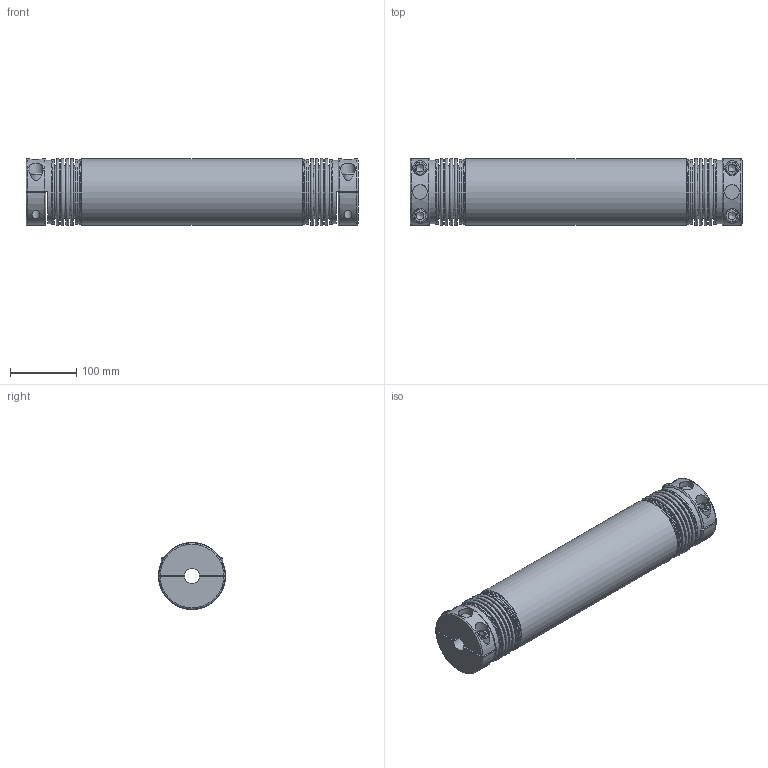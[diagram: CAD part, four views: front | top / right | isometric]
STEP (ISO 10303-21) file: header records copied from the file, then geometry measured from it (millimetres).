
FILE_DESCRIPTION( ( 'Unknown' ), '1' );
FILE_NAME( 'F:/PR/14_Step-Dateien/WD-HD/WD-HD 400 - L=0,5m.stp', 'Unknown', ( 'Unknown' ), ( 'Unknown' ), 'PSStep 10.1', 'Unknown', ' ' );
FILE_SCHEMA( ( 'AUTOMOTIVE_DESIGN { 1 0 10303 214 1 1 1 1 }' ) );
Length unit declared in the file: millimetre
Products named in the file (1): WD-HD 400
Bounding box: 500 x 101 x 101 mm (x, y, z)
Volume: 1374818.7 mm3; surface area: 467605.4 mm2
Topology: 1 solids, 7 shells, 266 faces, 542 edges, 354 vertices
Faces by surface type: plane 142, torus 58, cylinder 54, cone 12
Full cylindrical faces by diameter (mm): 12 x4, 14 x4, 15 x4, 21 x4, 22 x6, 56 x2, 62 x2, 75 x2, 76 x2, 90 x1, 95.4 x8, 97.2 x4, 98 x2, 100 x1
Entity records: 9408 total; most frequent: CARTESIAN_POINT 2125, DIRECTION 1130, ORIENTED_EDGE 792, AXIS2_PLACEMENT_3D 493, EDGE_LOOP 456, EDGE_CURVE 396, FACE_OUTER_BOUND 362, VERTEX_POINT 320
